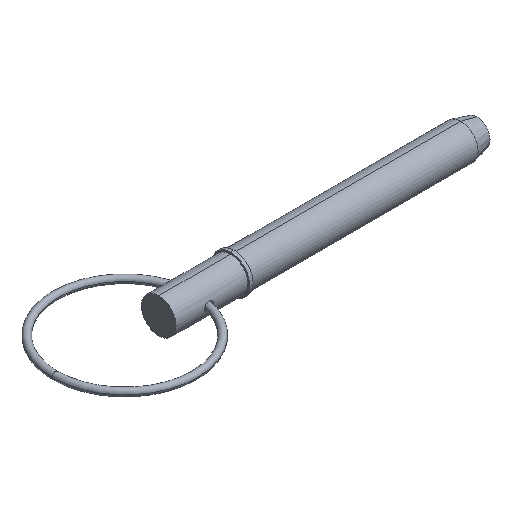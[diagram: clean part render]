
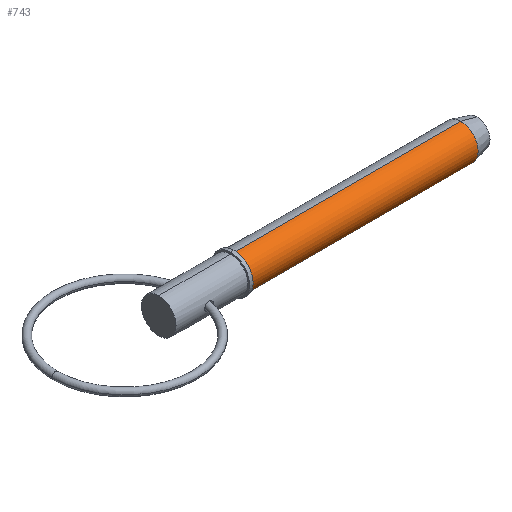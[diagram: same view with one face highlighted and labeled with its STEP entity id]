
A CAD part, isometric view. The second image highlights one B-rep face of the part: STEP entity #743.
In plain terms, the highlighted cylindrical face has radius 5.555 mm (diameter 11.11 mm), a partial arc.
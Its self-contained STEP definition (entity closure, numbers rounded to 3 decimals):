
#9 = EDGE_CURVE ( 'NONE', #186, #426, #783, .T. ) ;
#22 = CIRCLE ( 'NONE', #51, 5.555 ) ;
#51 = AXIS2_PLACEMENT_3D ( 'NONE', #564, #468, #71 ) ;
#71 = DIRECTION ( 'NONE',  ( 0., 0., -1. ) ) ;
#84 = CARTESIAN_POINT ( 'NONE',  ( 24.13, 0., -5.555 ) ) ;
#133 = LINE ( 'NONE', #864, #203 ) ;
#175 = AXIS2_PLACEMENT_3D ( 'NONE', #1028, #237, #787 ) ;
#180 = ORIENTED_EDGE ( 'NONE', *, *, #935, .T. ) ;
#186 = VERTEX_POINT ( 'NONE', #656 ) ;
#203 = VECTOR ( 'NONE', #464, 1000. ) ;
#237 = DIRECTION ( 'NONE',  ( 1., 0., 0. ) ) ;
#268 = VERTEX_POINT ( 'NONE', #469 ) ;
#333 = EDGE_CURVE ( 'NONE', #268, #186, #133, .T. ) ;
#350 = DIRECTION ( 'NONE',  ( 0., 0., -1. ) ) ;
#406 = ORIENTED_EDGE ( 'NONE', *, *, #9, .F. ) ;
#426 = VERTEX_POINT ( 'NONE', #699 ) ;
#456 = DIRECTION ( 'NONE',  ( 1., 0., 0. ) ) ;
#464 = DIRECTION ( 'NONE',  ( 1., 0., 0. ) ) ;
#467 = AXIS2_PLACEMENT_3D ( 'NONE', #739, #580, #350 ) ;
#468 = DIRECTION ( 'NONE',  ( 1., 0., 0. ) ) ;
#469 = CARTESIAN_POINT ( 'NONE',  ( 24.13, 0., 5.555 ) ) ;
#564 = CARTESIAN_POINT ( 'NONE',  ( 24.13, 0., 0. ) ) ;
#580 = DIRECTION ( 'NONE',  ( 1., 0., 0. ) ) ;
#594 = VERTEX_POINT ( 'NONE', #84 ) ;
#607 = CARTESIAN_POINT ( 'NONE',  ( 0., 0., -5.555 ) ) ;
#656 = CARTESIAN_POINT ( 'NONE',  ( 96.717, 0., 5.555 ) ) ;
#699 = CARTESIAN_POINT ( 'NONE',  ( 96.717, 0., -5.555 ) ) ;
#719 = VECTOR ( 'NONE', #456, 1000. ) ;
#739 = CARTESIAN_POINT ( 'NONE',  ( 0., 0., 0. ) ) ;
#743 = ADVANCED_FACE ( 'NONE', ( #905 ), #744, .T. ) ;
#744 = CYLINDRICAL_SURFACE ( 'NONE', #467, 5.555 ) ;
#770 = LINE ( 'NONE', #607, #719 ) ;
#783 = CIRCLE ( 'NONE', #175, 5.555 ) ;
#787 = DIRECTION ( 'NONE',  ( 0., 0., -1. ) ) ;
#864 = CARTESIAN_POINT ( 'NONE',  ( 0., 0., 5.555 ) ) ;
#905 = FACE_OUTER_BOUND ( 'NONE', #906, .T. ) ;
#906 = EDGE_LOOP ( 'NONE', ( #1009, #986, #180, #406 ) ) ;
#935 = EDGE_CURVE ( 'NONE', #594, #426, #770, .T. ) ;
#986 = ORIENTED_EDGE ( 'NONE', *, *, #1034, .T. ) ;
#1009 = ORIENTED_EDGE ( 'NONE', *, *, #333, .F. ) ;
#1028 = CARTESIAN_POINT ( 'NONE',  ( 96.717, 0., 0. ) ) ;
#1034 = EDGE_CURVE ( 'NONE', #268, #594, #22, .T. ) ;
